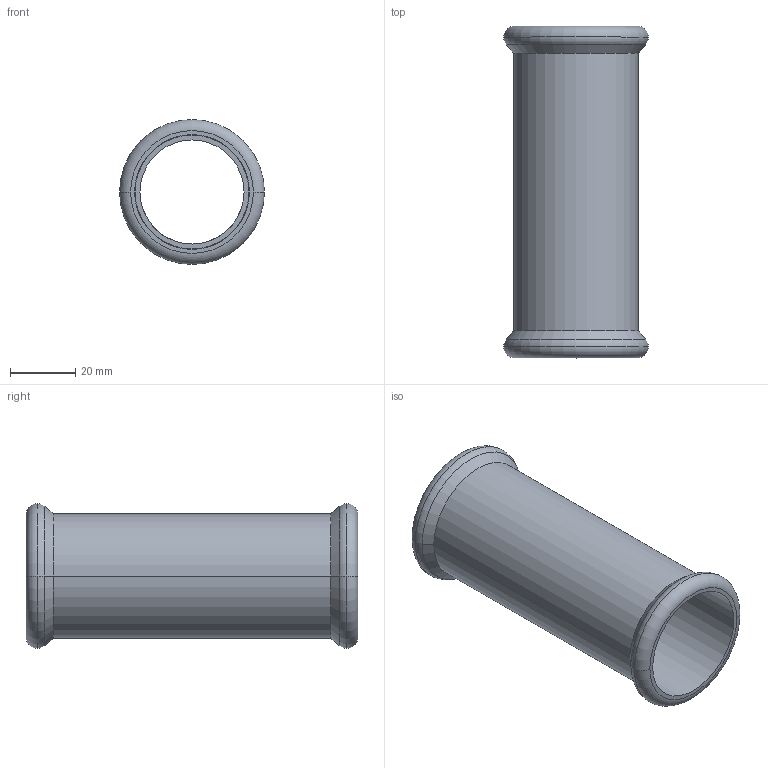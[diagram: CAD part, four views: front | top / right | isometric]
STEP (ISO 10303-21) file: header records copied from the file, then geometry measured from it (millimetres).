
FILE_DESCRIPTION(('CoCreate Modeling STEP Export'),'2;1');
FILE_NAME('C1403 35x35.stp','2014-11-07T14:06:06',(''),(''),'CoCreate Modeling STEP processor for AP214 (Solid Model)','CoCreate Modeling 17.00A 17-Jun-2010 (C) Parametric Technology GmbH','');
FILE_SCHEMA(('AUTOMOTIVE_DESIGN { 1 0 10303 214 1 1 1 1 }'));
Length unit declared in the file: millimetre
Products named in the file (2): C1403_35x35
Assembly tree (1 placements, depth 2):
  C1403_35x35
    C1403_35x35
Bounding box: 44.55 x 102 x 44.55 mm (x, y, z)
Volume: 30908.8 mm3; surface area: 24900.1 mm2
Topology: 1 solids, 1 shells, 30 faces, 61 edges, 37 vertices
Faces by surface type: cylinder 12, torus 8, plane 6, cone 4
Entity records: 686 total; most frequent: ORIENTED_EDGE 122, DIRECTION 104, CARTESIAN_POINT 97, EDGE_CURVE 61, AXIS2_PLACEMENT_3D 44, VERTEX_POINT 37, EDGE_LOOP 36, FACE_OUTER_BOUND 30
